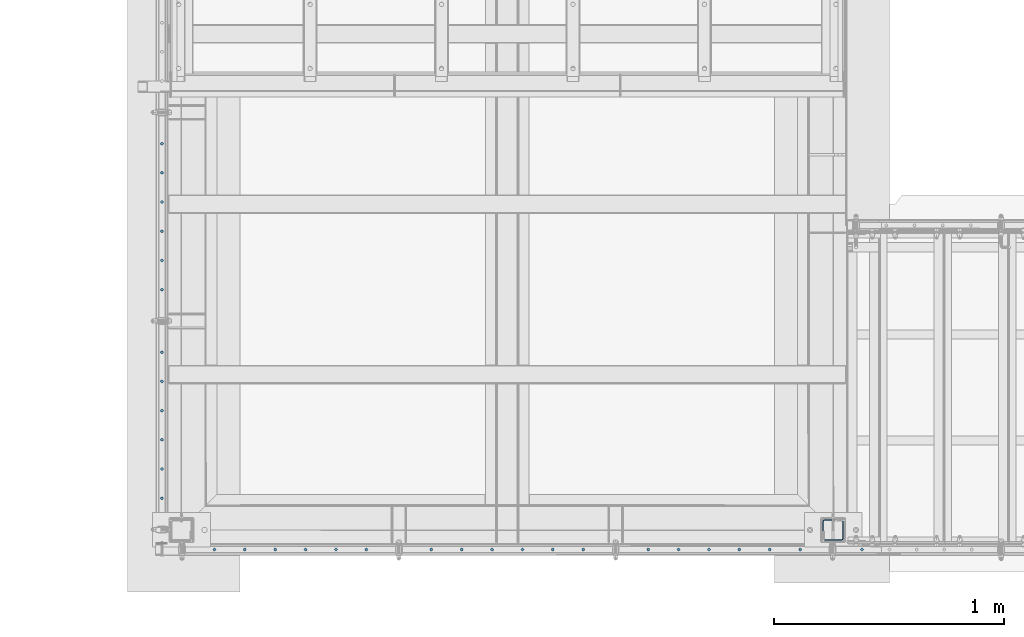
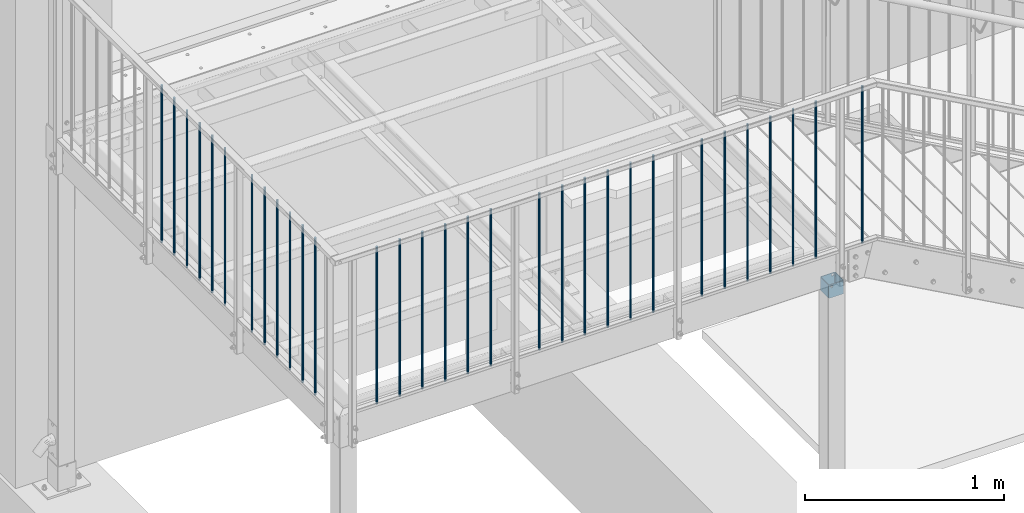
# One storey, part 4 of 116: 32 columns, 2 openings.
"""IFC2X3 building model written with IfcOpenShell, lengths in millimetres."""

from ifc_helpers import new_model, entity, si_unit, converted_unit, frame, frame_2d, origin, origin_with_axes, origin_2d, place, context, project, spatial, hollow_rectangle, circle, extrude, material, element, save


model = new_model("IFC2X3")

# Units and contexts
model_context = context("Model", 3, precision=1e-09, world=origin_with_axes())
ifc_project = project(units=[si_unit("LENGTHUNIT", "METRE", prefix="MILLI"), si_unit("AREAUNIT", "SQUARE_METRE"), si_unit("VOLUMEUNIT", "CUBIC_METRE"), converted_unit("PLANEANGLEUNIT", "DEGREE", entity("IfcPlaneAngleMeasure", 0.01745329), si_unit("PLANEANGLEUNIT", "RADIAN"), dimensions=[0, 0, 0, 0, 0, 0, 0])], contexts=[model_context])

# Site, building, storey
site_placement = place(None, origin_with_axes())
site = spatial("IfcSite", under=ifc_project, at=site_placement, Name="Site", CompositionType="ELEMENT")
building_placement = place(site_placement, origin_with_axes())
building = spatial("IfcBuilding", under=site, at=building_placement, Name="Struktur 1", CompositionType="ELEMENT")
storey_placement = place(building_placement, origin_with_axes())
storey = spatial("IfcBuildingStorey", under=building, at=storey_placement, Name="Default Storey", CompositionType="ELEMENT", Elevation=0.0)

# Column
ifc_material = material(Name="S235JR")
column_1_placement = place(None, frame((58293.049134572, 9047.359883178, 20.0), z_axis=(0.0, 0.0, -1.0), x_axis=(1.0, 0.0, 0.0)))
element("IfcColumn", 1, at=column_1_placement, inside=storey, material=ifc_material, Name="-", ObjectType="-", context=model_context, shape_type="SweptSolid", body=[
    extrude(circle(Radius=6.0, at=origin_2d()), origin(), (0.0, 0.0, -1.0), 965.0),
])

# Column, openings
column_2_placement = place(None, frame((58167.049134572, 9132.358883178, -285.0), z_axis=(0.0, 0.0, -1.0), x_axis=(0.0, 1.0, 0.0)))
column_2 = element("IfcColumn", 2, at=column_2_placement, inside=storey, material=ifc_material, Name="-", ObjectType="-", context=model_context, shape_type="SweptSolid", body=[
    extrude(hollow_rectangle(XDim=90.0, YDim=90.0, WallThickness=4.0, InnerFilletRadius=4.0, OuterFilletRadius=8.0, at=origin_2d()), origin(), (0.0, 0.0, -1.0), 80.0),
])
opening_1_placement = place(column_2_placement, frame((-40.5, 0.0, 0.0), z_axis=(-1.0, 0.0, 0.0), x_axis=(0.0, 1.0, 0.0)))
element("IfcOpeningElement", 3, at=opening_1_placement, cuts=column_2, ObjectType="Opening", context=model_context, shape_type="SweptSolid", body=[
    extrude(circle(Radius=7.001, at=frame_2d((-28.0, 68.0), x_axis=(1.0, 0.0))), origin(), (0.0, 0.0, 1.0), 5.0),
])
opening_2_placement = place(column_2_placement, frame((40.5, 0.0, 0.0), z_axis=(1.0, 0.0, 0.0), x_axis=(0.0, -1.0, 0.0)))
element("IfcOpeningElement", 4, at=opening_2_placement, cuts=column_2, ObjectType="Opening", context=model_context, shape_type="SweptSolid", body=[
    extrude(circle(Radius=7.001, at=frame_2d((-28.0, 68.0), x_axis=(1.0, 0.0))), origin(), (0.0, 0.0, 1.0), 5.0),
])

# Columns
for number, where, z_axis, x_axis in (
    (5, (55480.049134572, 9047.359883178, 20.0), (0.0, 0.0, -1.0), (1.0, 0.0, 0.0)),
    (6, (55612.049134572, 9047.359883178, 20.0), (0.0, 0.0, -1.0), (1.0, 0.0, 0.0)),
    (7, (55744.049134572, 9047.359883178, 20.0), (0.0, 0.0, -1.0), (1.0, 0.0, 0.0)),
    (8, (55876.049134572, 9047.359883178, 20.0), (0.0, 0.0, -1.0), (1.0, 0.0, 0.0)),
    (9, (56008.049134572, 9047.359883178, 20.0), (0.0, 0.0, -1.0), (1.0, 0.0, 0.0)),
    (10, (56140.049134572, 9047.359883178, 20.0), (0.0, 0.0, -1.0), (1.0, 0.0, 0.0)),
    (11, (56422.049134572, 9047.359883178, 20.0), (0.0, 0.0, -1.0), (1.0, 0.0, 0.0)),
    (12, (56554.049134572, 9047.359883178, 20.0), (0.0, 0.0, -1.0), (1.0, 0.0, 0.0)),
    (13, (56686.049134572, 9047.359883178, 20.0), (0.0, 0.0, -1.0), (1.0, 0.0, 0.0)),
    (14, (56818.049134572, 9047.359883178, 20.0), (0.0, 0.0, -1.0), (1.0, 0.0, 0.0)),
    (15, (56950.049134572, 9047.359883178, 20.0), (0.0, 0.0, -1.0), (1.0, 0.0, 0.0)),
    (16, (57082.049134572, 9047.359883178, 20.0), (0.0, 0.0, -1.0), (1.0, 0.0, 0.0)),
    (17, (57364.049134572, 9047.359883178, 20.0), (0.0, 0.0, -1.0), (1.0, 0.0, 0.0)),
    (18, (57496.049134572, 9047.359883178, 20.0), (0.0, 0.0, -1.0), (1.0, 0.0, 0.0)),
    (19, (57628.049134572, 9047.359883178, 20.0), (0.0, 0.0, -1.0), (1.0, 0.0, 0.0)),
    (20, (57760.049134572, 9047.359883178, 20.0), (0.0, 0.0, -1.0), (1.0, 0.0, 0.0)),
    (21, (57892.049134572, 9047.359883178, 20.0), (0.0, 0.0, -1.0), (1.0, 0.0, 0.0)),
    (22, (58024.049134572, 9047.359883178, 20.0), (0.0, 0.0, -1.0), (1.0, 0.0, 0.0)),
    (23, (55252.049134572, 9270.216025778, 20.0), (0.0, 0.0, -1.0), (0.0, 1.0, 0.0)),
    (24, (55252.049134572, 9397.073168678, 20.0), (0.0, 0.0, -1.0), (0.0, 1.0, 0.0)),
    (25, (55252.049134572, 9523.930311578, 20.0), (0.0, 0.0, -1.0), (0.0, 1.0, 0.0)),
    (26, (55252.049134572, 9650.787454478, 20.0), (0.0, 0.0, -1.0), (0.0, 1.0, 0.0)),
    (27, (55252.049134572, 9777.644597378, 20.0), (0.0, 0.0, -1.0), (0.0, 1.0, 0.0)),
    (28, (55252.049134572, 9904.501740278, 20.0), (0.0, 0.0, -1.0), (0.0, 1.0, 0.0)),
    (29, (55252.049134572, 10810.501740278, 20.0), (0.0, 0.0, -1.0), (0.0, 1.0, 0.0)),
    (30, (55252.049134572, 10683.644597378, 20.0), (0.0, 0.0, -1.0), (0.0, 1.0, 0.0)),
    (31, (55252.049134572, 10556.787454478, 20.0), (0.0, 0.0, -1.0), (0.0, 1.0, 0.0)),
    (32, (55252.049134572, 10429.930311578, 20.0), (0.0, 0.0, -1.0), (0.0, 1.0, 0.0)),
    (33, (55252.049134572, 10303.073168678, 20.0), (0.0, 0.0, -1.0), (0.0, 1.0, 0.0)),
    (34, (55252.049134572, 10176.216025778, 20.0), (0.0, 0.0, -1.0), (0.0, 1.0, 0.0)),
):
    element("IfcColumn", number, at=place(None, frame(where, z_axis=z_axis, x_axis=x_axis)), inside=storey, material=ifc_material, Name="-", ObjectType="-", context=model_context, shape_type="SweptSolid", body=[
        extrude(circle(Radius=6.0, at=origin_2d()), origin(), (0.0, 0.0, -1.0), 965.0),
    ])

save(model, "model.ifc")
